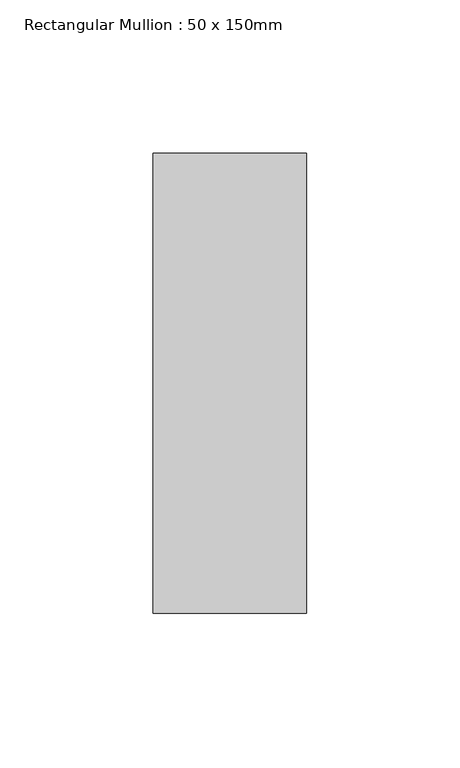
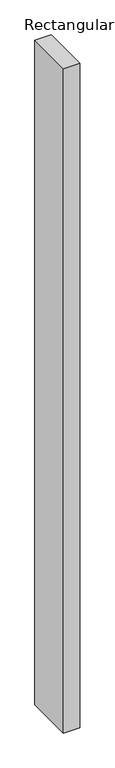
"""IFC4 building model written with IfcOpenShell, lengths in millimetres: member geometry, Rectangular Mullion : 50 x 150mm."""

from ifc_helpers import new_model, si_unit, frame, origin, place, context, project, spatial, polyline, outline, extrude, source, transform, mapped, element, save


def rectangular_mullion_50_x_150mm_116e1582(model_context):
    return source(origin(), model_context, "Body", "SweptSolid", [
        extrude(outline(polyline([(0.0, 75.0), (0.0, -75.0), (-50.0, -75.0), (-50.0, 75.0), (0.0, 75.0)])), frame((0.0, 0.0, -2133.6), z_axis=(0.0, 0.0, 1.0), x_axis=(1.0, 0.0, 0.0)), (0.0, 0.0, 1.0), 2133.6),
    ])


if __name__ == "__main__":
    model = new_model("IFC4")
    model_context = context("Model", 3, world=origin())
    ifc_project = project(units=[si_unit("LENGTHUNIT", "METRE", prefix="MILLI")], contexts=[model_context])
    site = spatial("IfcSite", under=ifc_project)
    building = spatial("IfcBuilding", under=site)
    placement = place(None, origin())
    rectangular_mullion_50_x_150mm_shape = rectangular_mullion_50_x_150mm_116e1582(model_context)
    element("IfcMember", 1, ObjectType="Rectangular Mullion : 50 x 150mm", at=placement, inside=building, context=model_context, shape_type="MappedRepresentation", body=[
        mapped(rectangular_mullion_50_x_150mm_shape, transform((0.0, 0.0, 0.0), x_axis=(1.0, 0.0, 0.0), y_axis=(0.0, 1.0, 0.0), z_axis=(0.0, 0.0, 1.0))),
    ])
    save(model, "model.ifc")
